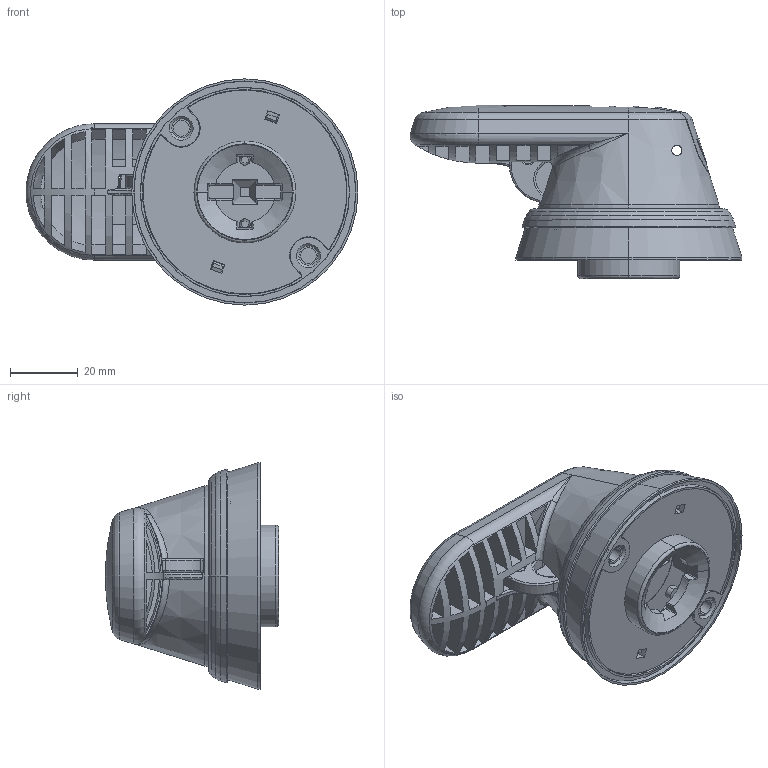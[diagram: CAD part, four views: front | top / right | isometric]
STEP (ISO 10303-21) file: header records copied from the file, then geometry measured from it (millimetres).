
FILE_DESCRIPTION((''),'2;1');
FILE_NAME('194U-160A_HANDLE_ASM','2019-01-03T08:51:54',('CLQuenti'),('Rockwell Automation'),'CREO PARAMETRIC BY PTC INC, 2017380','CREO PARAMETRIC BY PTC INC, 2017380','');
FILE_SCHEMA(('CONFIG_CONTROL_DESIGN'));
Products named in the file (11): CXBY_68347P28_1_1; CXBY_68340_8_1; CXBY_68339P3_9_1_1; SONICLOCKM4X7_5_1_1; 001535_1_1; CXBY_68345P4_9_1; CXBY_68348_X_2_1_1; CXBY_68344P5_13_1; HANDLE_1_ASM_ASM; HANDLE_2_ASM_ASM; 194U-160A_HANDLE_ASM
Assembly tree (10 placements, depth 4):
  194U-160A_HANDLE_ASM
    HANDLE_2_ASM_ASM
      HANDLE_1_ASM_ASM
        CXBY_68347P28_1_1
        CXBY_68340_8_1
        CXBY_68339P3_9_1_1
        SONICLOCKM4X7_5_1_1
        001535_1_1
        CXBY_68345P4_9_1
        CXBY_68348_X_2_1_1
        CXBY_68344P5_13_1
Bounding box: 97.77 x 51 x 66.63 mm (x, y, z)
Volume: 73391.5 mm3; surface area: 57746.8 mm2
Topology: 7 solids, 10 shells, 1258 faces, 3267 edges, 1981 vertices
Faces by surface type: plane 408, cylinder 372, bspline 235, torus 130, cone 83, sphere 15, extrusion 15
Entity records: 56384 total; most frequent: CARTESIAN_POINT 27541, ORIENTED_EDGE 6318, DIRECTION 5456, EDGE_CURVE 3172, AXIS2_PLACEMENT_3D 2092, VERTEX_POINT 1981, EDGE_LOOP 1349, VECTOR 1272
